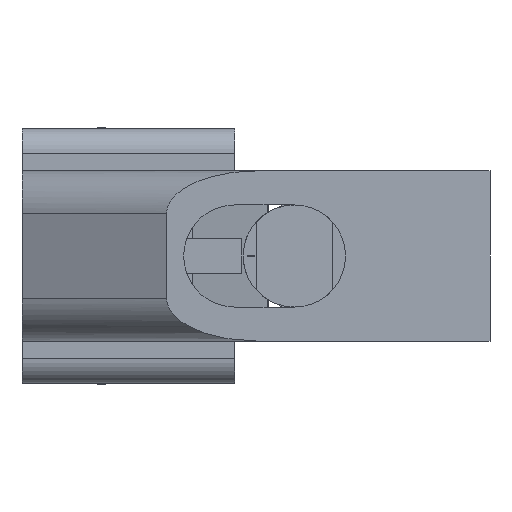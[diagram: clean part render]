
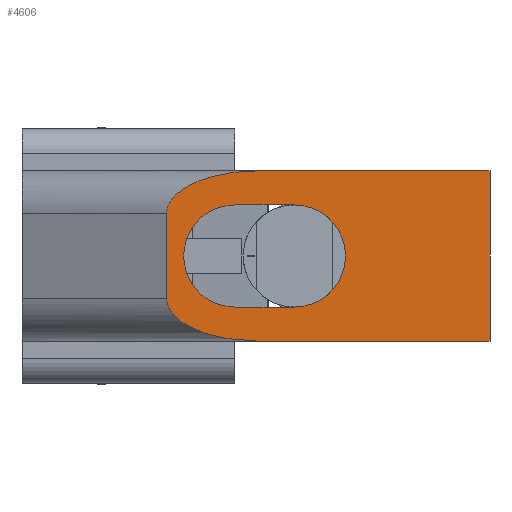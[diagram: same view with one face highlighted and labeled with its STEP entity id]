
A CAD part, left-side view. The second image highlights one B-rep face of the part: STEP entity #4606.
In plain terms, the highlighted planar face has unit normal (-1, 0, 0).
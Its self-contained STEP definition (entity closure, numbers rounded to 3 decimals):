
#154=ELLIPSE('',#5124,10.686,5.);
#155=ELLIPSE('',#5126,10.686,5.);
#362=FACE_BOUND('',#921,.T.);
#430=CIRCLE('',#5110,6.);
#434=CIRCLE('',#5120,6.);
#653=FACE_OUTER_BOUND('',#920,.T.);
#920=EDGE_LOOP('',(#3222,#3223,#3224,#3225,#3226,#3227));
#921=EDGE_LOOP('',(#3228,#3229,#3230,#3231));
#1217=LINE('',#6909,#1578);
#1222=LINE('',#6923,#1583);
#1242=LINE('',#7117,#1603);
#1249=LINE('',#7259,#1610);
#1250=LINE('',#7262,#1611);
#1251=LINE('',#7263,#1612);
#1578=VECTOR('',#5586,10.);
#1583=VECTOR('',#5597,10.);
#1603=VECTOR('',#5683,10.);
#1610=VECTOR('',#5716,10.);
#1611=VECTOR('',#5719,10.);
#1612=VECTOR('',#5720,10.);
#1935=VERTEX_POINT('',#6906);
#1936=VERTEX_POINT('',#6908);
#1941=VERTEX_POINT('',#6920);
#1942=VERTEX_POINT('',#6922);
#1974=VERTEX_POINT('',#7114);
#1975=VERTEX_POINT('',#7116);
#1987=VERTEX_POINT('',#7252);
#1988=VERTEX_POINT('',#7254);
#1989=VERTEX_POINT('',#7258);
#1990=VERTEX_POINT('',#7260);
#2406=EDGE_CURVE('',#1936,#1935,#1217,.T.);
#2413=EDGE_CURVE('',#1942,#1941,#1222,.T.);
#2455=EDGE_CURVE('',#1935,#1942,#430,.T.);
#2459=EDGE_CURVE('',#1975,#1974,#1242,.T.);
#2473=EDGE_CURVE('',#1941,#1936,#434,.T.);
#2477=EDGE_CURVE('',#1987,#1988,#154,.T.);
#2479=EDGE_CURVE('',#1989,#1987,#1249,.T.);
#2480=EDGE_CURVE('',#1990,#1989,#155,.T.);
#2481=EDGE_CURVE('',#1990,#1975,#1250,.T.);
#2482=EDGE_CURVE('',#1974,#1988,#1251,.T.);
#3222=ORIENTED_EDGE('',*,*,#2477,.F.);
#3223=ORIENTED_EDGE('',*,*,#2479,.F.);
#3224=ORIENTED_EDGE('',*,*,#2480,.F.);
#3225=ORIENTED_EDGE('',*,*,#2481,.T.);
#3226=ORIENTED_EDGE('',*,*,#2459,.T.);
#3227=ORIENTED_EDGE('',*,*,#2482,.T.);
#3228=ORIENTED_EDGE('',*,*,#2413,.T.);
#3229=ORIENTED_EDGE('',*,*,#2473,.T.);
#3230=ORIENTED_EDGE('',*,*,#2406,.T.);
#3231=ORIENTED_EDGE('',*,*,#2455,.T.);
#4466=PLANE('',#5125);
#4606=ADVANCED_FACE('',(#653,#362),#4466,.T.);
#5110=AXIS2_PLACEMENT_3D('',#7107,#5674,#5675);
#5120=AXIS2_PLACEMENT_3D('',#7246,#5702,#5703);
#5124=AXIS2_PLACEMENT_3D('',#7255,#5711,#5712);
#5125=AXIS2_PLACEMENT_3D('',#7257,#5714,#5715);
#5126=AXIS2_PLACEMENT_3D('',#7261,#5717,#5718);
#5586=DIRECTION('',(0.,1.,0.));
#5597=DIRECTION('',(0.,-1.,0.));
#5674=DIRECTION('center_axis',(1.,0.,0.));
#5675=DIRECTION('ref_axis',(0.,0.,
1.));
#5683=DIRECTION('',(0.,0.,1.));
#5702=DIRECTION('center_axis',(1.,0.,0.));
#5703=DIRECTION('ref_axis',(0.,0.,-1.));
#5711=DIRECTION('center_axis',(1.,0.,0.));
#5712=DIRECTION('ref_axis',(0.,1.,0.));
#5714=DIRECTION('center_axis',(-1.,0.,0.));
#5715=DIRECTION('ref_axis',(0.,0.,1.));
#5716=DIRECTION('',(0.,0.,1.));
#5717=DIRECTION('center_axis',(1.,0.,0.));
#5718=DIRECTION('ref_axis',(0.,1.,0.));
#5719=DIRECTION('',(0.,-1.,0.));
#5720=DIRECTION('',(0.,1.,0.));
#6906=CARTESIAN_POINT('',(-2.806,6.665,4.));
#6908=CARTESIAN_POINT('',(-2.806,-0.335,4.));
#6909=CARTESIAN_POINT('',(-2.806,-6.16,4.));
#6920=CARTESIAN_POINT('',(-2.806,-0.335,16.));
#6922=CARTESIAN_POINT('',(-2.806,6.665,16.));
#6923=CARTESIAN_POINT('',(-2.806,-7.835,16.));
#7107=CARTESIAN_POINT('Origin',(-2.806,6.665,10.));
#7114=CARTESIAN_POINT('',(-2.806,-23.335,20.));
#7116=CARTESIAN_POINT('',(-2.806,-23.335,0.));
#7117=CARTESIAN_POINT('',(-2.806,-23.335,20.));
#7246=CARTESIAN_POINT('Origin',(-2.806,-0.335,10.));
#7252=CARTESIAN_POINT('',(-2.806,14.665,15.));
#7254=CARTESIAN_POINT('',(-2.806,3.979,20.));
#7255=CARTESIAN_POINT('Origin',(-2.806,3.979,15.));
#7257=CARTESIAN_POINT('Origin',(-2.806,-15.335,0.));
#7258=CARTESIAN_POINT('',(-2.806,14.665,5.));
#7259=CARTESIAN_POINT('',(-2.806,14.665,0.));
#7260=CARTESIAN_POINT('',(-2.806,3.979,0.));
#7261=CARTESIAN_POINT('Origin',(-2.806,3.979,5.));
#7262=CARTESIAN_POINT('',(-2.806,14.665,0.));
#7263=CARTESIAN_POINT('',(-2.806,14.665,20.));
